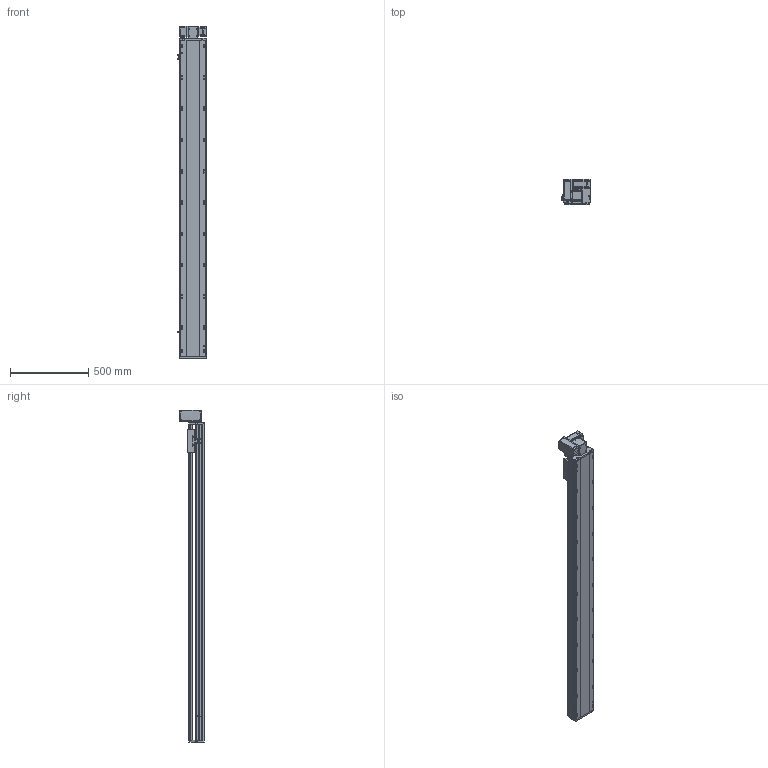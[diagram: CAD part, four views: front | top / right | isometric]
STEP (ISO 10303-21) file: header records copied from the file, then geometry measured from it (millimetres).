
FILE_DESCRIPTION (( 'STEP AP214' ), '1' );
FILE_NAME ('RTB17S-XX-1750-LW-M40-C4.STEP', '2025-12-11T07:10:58', ( '' ), ( '' ), 'SwSTEP 2.0', 'SolidWorks 2018', '' );
FILE_SCHEMA (( 'AUTOMOTIVE_DESIGN' ));
Length unit declared in the file: millimetre
Products named in the file (14): RTB17S-XX-1750-LW-M40-C4; RTB17S-L-004佪裝蹟譫蟀諉釱^RTB17S-XX-XX-LW-M40-C4; RTB17S-L-014-T20--々湍釱^RTB17S-LW-々湍釱蚾饜-400W_RTB17S-XX-XX-LW-M40-C4; RTB14-L-017P^RTB17S-LW-々湍釱蚾饜-400W_RTB17S-XX-XX-LW-M40-C4; 400W侜督萇儂^RTB17S-XX-XX-LW-M40-C4; RTB17S-LW-々湍釱蚾饜-400W^RTB17S-XX-XX-LW-M40-C4; OMRON EE-SX672 传感器^RTB17S-XX-XX-LW-M40-C4; RTH13-BL-012覜茼え俋离^RTB17S-XX-XX-LW-M40-C4; RTB17-R-011菁釱^RTB17S-XX-XX-LW-M40-C4; RTB14-L-018P^RTB17S-LW-々湍釱蚾饜-400W_RTB17S-XX-XX-LW-M40-C4; RTB17S-L-007奻裔^RTB17S-XX-XX-LW-M40-C4; RTB14-L-008-M20--萇儂啣^RTB17S-LW-々湍釱蚾饜-400W_RTB17S-XX-XX-LW-M40-C4; RTB17S-L-001耜醱啣^RTB17S-XX-XX-LW-M40-C4; RTB14-L-005P--轴承塑胶压盖^RTB17S-LW-皮带座装配-400W_RTB17S-XX-XX-LW-M40-C4
Assembly tree (16 placements, depth 3):
  RTB17S-XX-1750-LW-M40-C4
    RTB17-R-011菁釱^RTB17S-XX-XX-LW-M40-C4
    RTB17S-L-007奻裔^RTB17S-XX-XX-LW-M40-C4
    OMRON EE-SX672 传感器^RTB17S-XX-XX-LW-M40-C4  x3
    RTB17S-L-001耜醱啣^RTB17S-XX-XX-LW-M40-C4
    400W侜督萇儂^RTB17S-XX-XX-LW-M40-C4
    RTB17S-L-004佪裝蹟譫蟀諉釱^RTB17S-XX-XX-LW-M40-C4
    RTH13-BL-012覜茼え俋离^RTB17S-XX-XX-LW-M40-C4
    RTB17S-LW-々湍釱蚾饜-400W^RTB17S-XX-XX-LW-M40-C4
      RTB17S-L-014-T20--々湍釱^RTB17S-LW-々湍釱蚾饜-400W_RTB17S-XX-XX-LW-M40-C4
      RTB14-L-005P--轴承塑胶压盖^RTB17S-LW-皮带座装配-400W_RTB17S-XX-XX-LW-M40-C4
      RTB14-L-008-M20--萇儂啣^RTB17S-LW-々湍釱蚾饜-400W_RTB17S-XX-XX-LW-M40-C4
      RTB14-L-017P^RTB17S-LW-々湍釱蚾饜-400W_RTB17S-XX-XX-LW-M40-C4  x2
      RTB14-L-018P^RTB17S-LW-々湍釱蚾饜-400W_RTB17S-XX-XX-LW-M40-C4
Bounding box: 186 x 160.5 x 2122.5 mm (x, y, z)
Volume: 18490544.7 mm3; surface area: 2165033.4 mm2
Topology: 15 solids, 15 shells, 2269 faces, 6303 edges, 4113 vertices
Faces by surface type: plane 1076, cylinder 745, bspline 301, cone 139, torus 8
Entity records: 65705 total; most frequent: CARTESIAN_POINT 18508, ORIENTED_EDGE 9450, DIRECTION 8756, EDGE_CURVE 4725, VERTEX_POINT 3101, AXIS2_PLACEMENT_3D 3031, VECTOR 2694, LINE 2694
